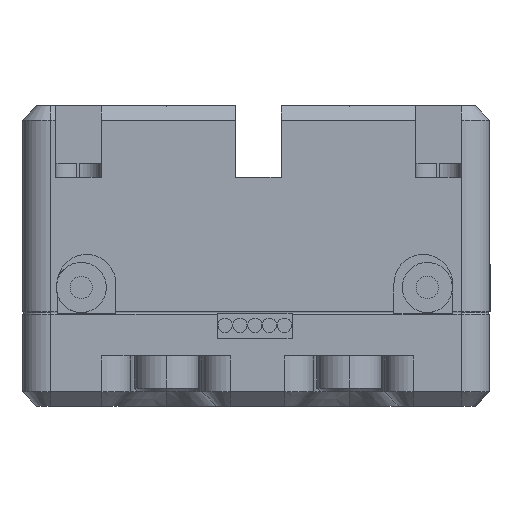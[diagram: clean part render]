
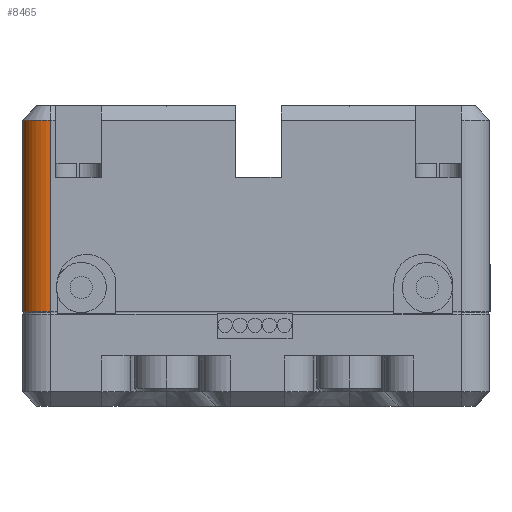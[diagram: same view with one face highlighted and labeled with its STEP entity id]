
A CAD part, left-side view. The second image highlights one B-rep face of the part: STEP entity #8465.
In plain terms, the highlighted cylindrical face has radius 2 mm (diameter 4 mm), a partial arc.
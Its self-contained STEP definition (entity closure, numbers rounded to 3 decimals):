
#1475 = VERTEX_POINT ( 'NONE', #25617 ) ;
#2399 = EDGE_LOOP ( 'NONE', ( #10279, #11798, #10992, #13661 ) ) ;
#2517 = CARTESIAN_POINT ( 'NONE',  ( -11.754, 62.857, 56.855 ) ) ;
#2802 = AXIS2_PLACEMENT_3D ( 'NONE', #14332, #29967, #11901 ) ;
#3815 = VERTEX_POINT ( 'NONE', #17779 ) ;
#6139 = EDGE_CURVE ( 'NONE', #3815, #12928, #19772, .T. ) ;
#6288 = EDGE_CURVE ( 'NONE', #8850, #1475, #9627, .T. ) ;
#7511 = DIRECTION ( 'NONE',  ( 0., 0., -1. ) ) ;
#8081 = DIRECTION ( 'NONE',  ( -1., 0., 0. ) ) ;
#8465 = ADVANCED_FACE ( 'NONE', ( #10079 ), #21936, .T. ) ;
#8850 = VERTEX_POINT ( 'NONE', #11509 ) ;
#9627 = CIRCLE ( 'NONE', #22207, 2. ) ;
#9917 = CARTESIAN_POINT ( 'NONE',  ( -9.754, 62.857, 56.958 ) ) ;
#10079 = FACE_OUTER_BOUND ( 'NONE', #2399, .T. ) ;
#10279 = ORIENTED_EDGE ( 'NONE', *, *, #14515, .F. ) ;
#10992 = ORIENTED_EDGE ( 'NONE', *, *, #20502, .F. ) ;
#11509 = CARTESIAN_POINT ( 'NONE',  ( -9.754, 64.857, 56.958 ) ) ;
#11798 = ORIENTED_EDGE ( 'NONE', *, *, #6288, .T. ) ;
#11901 = DIRECTION ( 'NONE',  ( 1., 0., 0. ) ) ;
#12928 = VERTEX_POINT ( 'NONE', #21724 ) ;
#13661 = ORIENTED_EDGE ( 'NONE', *, *, #6139, .T. ) ;
#14156 = VECTOR ( 'NONE', #7511, 1000. ) ;
#14332 = CARTESIAN_POINT ( 'NONE',  ( -9.754, 62.857, 70.355 ) ) ;
#14341 = LINE ( 'NONE', #2517, #14156 ) ;
#14515 = EDGE_CURVE ( 'NONE', #8850, #12928, #24455, .T. ) ;
#14792 = DIRECTION ( 'NONE',  ( 0., 0., 1. ) ) ;
#17779 = CARTESIAN_POINT ( 'NONE',  ( -11.754, 62.857, 70.355 ) ) ;
#18252 = VECTOR ( 'NONE', #20329, 1000. ) ;
#19772 = CIRCLE ( 'NONE', #2802, 2. ) ;
#19879 = CARTESIAN_POINT ( 'NONE',  ( -9.754, 64.857, 71.355 ) ) ;
#20329 = DIRECTION ( 'NONE',  ( 0., 0., 1. ) ) ;
#20502 = EDGE_CURVE ( 'NONE', #3815, #1475, #14341, .T. ) ;
#21485 = CARTESIAN_POINT ( 'NONE',  ( -9.754, 62.857, 58.855 ) ) ;
#21724 = CARTESIAN_POINT ( 'NONE',  ( -9.754, 64.857, 70.355 ) ) ;
#21936 = CYLINDRICAL_SURFACE ( 'NONE', #24754, 2. ) ;
#22207 = AXIS2_PLACEMENT_3D ( 'NONE', #9917, #28884, #8081 ) ;
#24455 = LINE ( 'NONE', #19879, #18252 ) ;
#24754 = AXIS2_PLACEMENT_3D ( 'NONE', #21485, #14792, #28460 ) ;
#25617 = CARTESIAN_POINT ( 'NONE',  ( -11.754, 62.857, 56.958 ) ) ;
#28460 = DIRECTION ( 'NONE',  ( 1., 0., 0. ) ) ;
#28884 = DIRECTION ( 'NONE',  ( 0., 0., 1. ) ) ;
#29967 = DIRECTION ( 'NONE',  ( 0., 0., -1. ) ) ;
